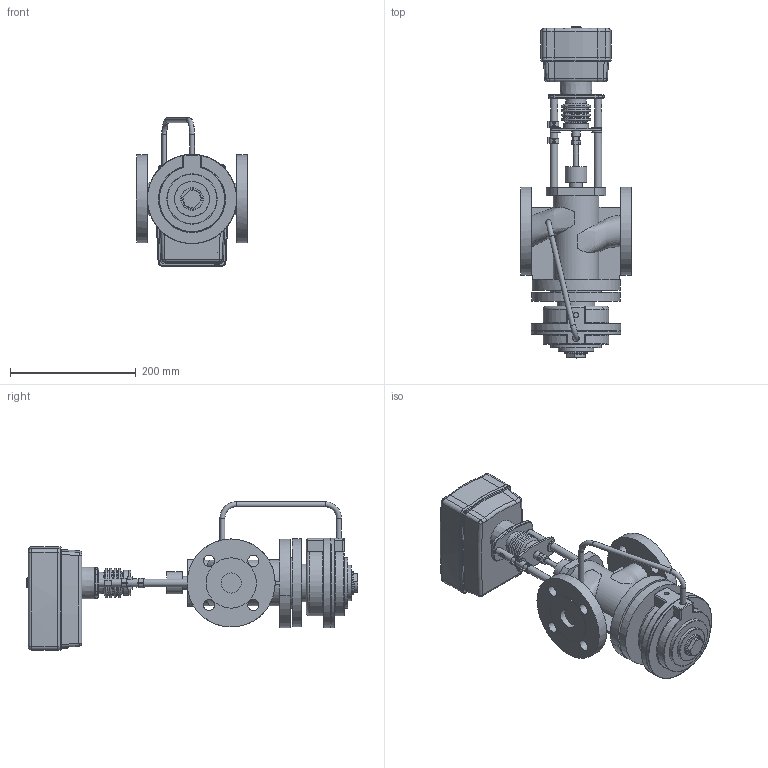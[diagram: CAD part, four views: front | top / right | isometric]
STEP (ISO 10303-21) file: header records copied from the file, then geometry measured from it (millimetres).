
FILE_DESCRIPTION(/* description */ ('Unknown'),/* implementation_level */ '2;1');
FILE_NAME(/* name */ 'Клапан TVC-32-101',/* time_stamp */ '2021-11-23T11:58:57+03:00',/* author */ ('Unknown'),/* organization */ ('Unknown'),/* preprocessor_version */ 'ST-DEVELOPER v16.7',/* originating_system */ 'DEX',/* authorisation */ $);
FILE_SCHEMA (('AUTOMOTIVE_DESIGN {1 0 10303 214 3 1 1}'));
Length unit declared in the file: millimetre
Products named in the file (1): 抔黽鳧 TVC-32-101
Bounding box: 178 x 528.2 x 236.07 mm (x, y, z)
Volume: 4206135.1 mm3; surface area: 386256.3 mm2
Topology: 1 solids, 4 shells, 447 faces, 1113 edges, 701 vertices
Faces by surface type: plane 199, cylinder 124, torus 54, cone 52, bspline 12, sphere 6
Full cylindrical faces by diameter (mm): 6 x3, 6.5 x1, 6.8 x1, 7.142 x1, 8 x4, 9.147 x1, 12.002 x4, 13 x1, 15 x1, 17.7 x8, 20 x2, 20.376 x1, 20.788 x1, 32 x2, 33.4 x1, 33.972 x1, 35 x1, 36 x1, 40 x1, 56 x1, 60 x1, 73.1 x1, 80 x4, 140 x2, 140.03 x1, 141.891 x1, 142 x2
Entity records: 17455 total; most frequent: CARTESIAN_POINT 4250, DIRECTION 2150, ORIENTED_EDGE 1928, EDGE_CURVE 964, AXIS2_PLACEMENT_3D 856, VERTEX_POINT 646, EDGE_LOOP 598, FACE_BOUND 598
